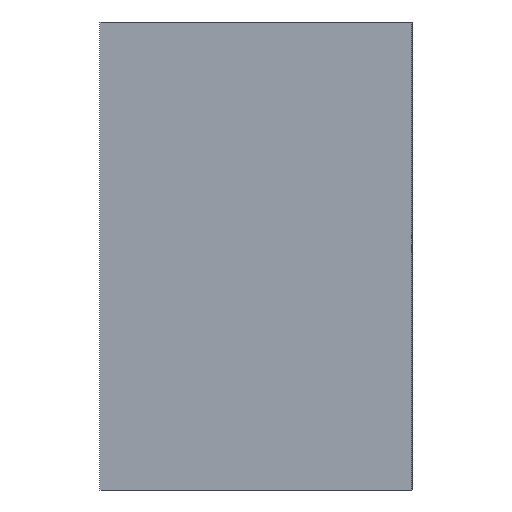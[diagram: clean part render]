
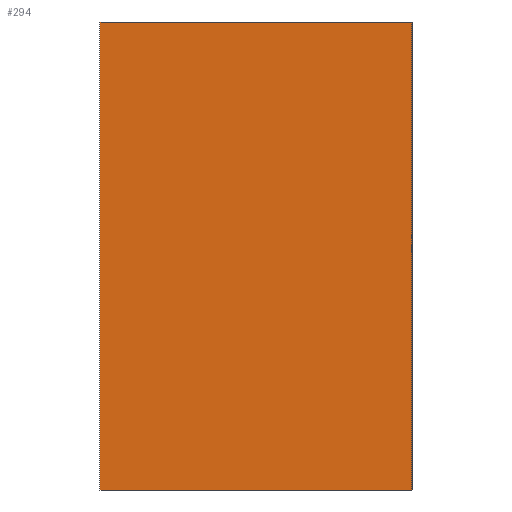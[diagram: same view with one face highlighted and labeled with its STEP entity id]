
A CAD part, left-side view. The second image highlights one B-rep face of the part: STEP entity #294.
In plain terms, the highlighted free-form (B-spline) face has degree [1, 1] with [2, 2] control points.
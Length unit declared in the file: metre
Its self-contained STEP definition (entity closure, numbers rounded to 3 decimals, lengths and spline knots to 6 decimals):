
#13=LINE('',#489,#25);
#16=LINE('',#498,#28);
#17=LINE('',#500,#29);
#18=LINE('',#502,#30);
#25=VECTOR('',#360,1.);
#28=VECTOR('',#363,1.);
#29=VECTOR('',#364,1.);
#30=VECTOR('',#365,1.);
#37=B_SPLINE_SURFACE_WITH_KNOTS('',1,1,((#494,#495),(#496,#497)),
 .PLANE_SURF.,.F.,.F.,.F.,(2,2),(2,2),(0.,1.),(0.,1.),.UNSPECIFIED.);
#76=ORIENTED_EDGE('',*,*,#160,.F.);
#77=ORIENTED_EDGE('',*,*,#161,.F.);
#78=ORIENTED_EDGE('',*,*,#162,.T.);
#79=ORIENTED_EDGE('',*,*,#157,.T.);
#157=EDGE_CURVE('',#200,#198,#13,.T.);
#160=EDGE_CURVE('',#202,#198,#16,.T.);
#161=EDGE_CURVE('',#203,#202,#17,.T.);
#162=EDGE_CURVE('',#203,#200,#18,.T.);
#198=VERTEX_POINT('',#487);
#200=VERTEX_POINT('',#490);
#202=VERTEX_POINT('',#499);
#203=VERTEX_POINT('',#501);
#232=EDGE_LOOP('',(#76,#77,#78,#79));
#258=FACE_BOUND('',#232,.T.);
#294=ADVANCED_FACE('',(#258),#37,.T.);
#360=DIRECTION('',(0.,1.,0.));
#363=DIRECTION('',(-0.014,0.,1.));
#364=DIRECTION('',(0.,1.,0.));
#365=DIRECTION('',(-0.014,0.,1.));
#487=CARTESIAN_POINT('',(-0.026513,0.,0.018947));
#489=CARTESIAN_POINT('',(-0.026513,-0.008,0.018947));
#490=CARTESIAN_POINT('',(-0.026513,-0.008,0.018947));
#494=CARTESIAN_POINT('',(-0.026342,-0.0084,0.006347));
#495=CARTESIAN_POINT('',(-0.026342,0.0004,0.006347));
#496=CARTESIAN_POINT('',(-0.026521,-0.0084,0.019547));
#497=CARTESIAN_POINT('',(-0.026521,0.0004,0.019547));
#498=CARTESIAN_POINT('',(-0.026432,0.,0.012947));
#499=CARTESIAN_POINT('',(-0.02635,0.,0.006947));
#500=CARTESIAN_POINT('',(-0.02635,-0.008,0.006947));
#501=CARTESIAN_POINT('',(-0.02635,-0.008,0.006947));
#502=CARTESIAN_POINT('',(-0.026432,-0.008,0.012947));
